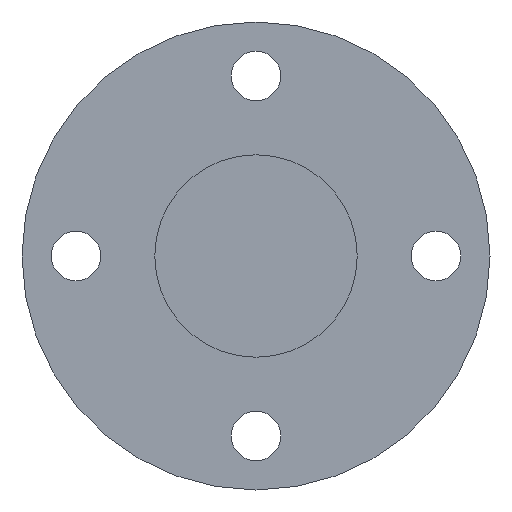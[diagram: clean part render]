
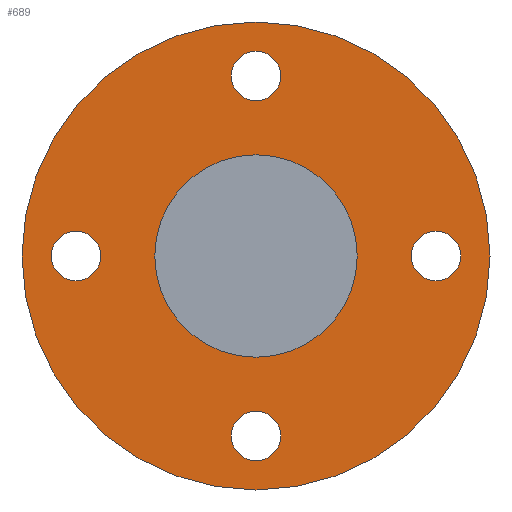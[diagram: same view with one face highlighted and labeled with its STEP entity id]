
A CAD part, left-side view. The second image highlights one B-rep face of the part: STEP entity #689.
In plain terms, the highlighted planar face has unit normal (-1, 0, 0).
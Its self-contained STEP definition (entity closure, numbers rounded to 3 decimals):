
#578=CARTESIAN_POINT('',(110.0,40.0,-5.5));
#579=VERTEX_POINT('',#578);
#580=CARTESIAN_POINT('',(110.0,40.0,0.));
#581=DIRECTION('',(1.0,0.0,0.0));
#582=DIRECTION('',(0.0,0.0,-1.0));
#583=AXIS2_PLACEMENT_3D('',#580,#581,#582);
#584=CIRCLE('',#583,5.5);
#585=EDGE_CURVE('',#579,#579,#584,.T.);
#598=CARTESIAN_POINT('',(110.0,-5.5,-40.0));
#599=VERTEX_POINT('',#598);
#600=CARTESIAN_POINT('',(110.0,0.,-40.0));
#601=DIRECTION('',(1.0,0.0,0.0));
#602=DIRECTION('',(0.0,-1.0,0.0));
#603=AXIS2_PLACEMENT_3D('',#600,#601,#602);
#604=CIRCLE('',#603,5.5);
#605=EDGE_CURVE('',#599,#599,#604,.T.);
#618=CARTESIAN_POINT('',(110.0,-40.0,5.5));
#619=VERTEX_POINT('',#618);
#620=CARTESIAN_POINT('',(110.0,-40.0,0.));
#621=DIRECTION('',(1.0,0.0,0.0));
#622=DIRECTION('',(0.0,0.0,1.0));
#623=AXIS2_PLACEMENT_3D('',#620,#621,#622);
#624=CIRCLE('',#623,5.5);
#625=EDGE_CURVE('',#619,#619,#624,.T.);
#638=CARTESIAN_POINT('',(110.0,5.5,40.0));
#639=VERTEX_POINT('',#638);
#640=CARTESIAN_POINT('',(110.0,0.0,40.0));
#641=DIRECTION('',(1.0,0.0,0.0));
#642=DIRECTION('',(0.0,1.0,0.0));
#643=AXIS2_PLACEMENT_3D('',#640,#641,#642);
#644=CIRCLE('',#643,5.5);
#645=EDGE_CURVE('',#639,#639,#644,.T.);
#650=CARTESIAN_POINT('',(110.0,0.0,37.25));
#651=DIRECTION('',(-1.0,0.0,0.0));
#652=DIRECTION('',(0.0,0.0,1.0));
#653=AXIS2_PLACEMENT_3D('',#650,#651,#652);
#654=PLANE('',#653);
#655=CARTESIAN_POINT('',(110.0,0.0,52.0));
#656=VERTEX_POINT('',#655);
#657=CARTESIAN_POINT('',(110.0,0.0,0.0));
#658=DIRECTION('',(-1.0,0.0,0.0));
#659=DIRECTION('',(0.0,0.0,1.0));
#660=AXIS2_PLACEMENT_3D('',#657,#658,#659);
#661=CIRCLE('',#660,52.0);
#662=EDGE_CURVE('',#656,#656,#661,.T.);
#663=ORIENTED_EDGE('',*,*,#662,.T.);
#664=EDGE_LOOP('',(#663));
#665=FACE_OUTER_BOUND('',#664,.T.);
#666=ORIENTED_EDGE('',*,*,#585,.T.);
#667=EDGE_LOOP('',(#666));
#668=FACE_BOUND('',#667,.T.);
#669=ORIENTED_EDGE('',*,*,#605,.T.);
#670=EDGE_LOOP('',(#669));
#671=FACE_BOUND('',#670,.T.);
#672=ORIENTED_EDGE('',*,*,#625,.T.);
#673=EDGE_LOOP('',(#672));
#674=FACE_BOUND('',#673,.T.);
#675=ORIENTED_EDGE('',*,*,#645,.T.);
#676=EDGE_LOOP('',(#675));
#677=FACE_BOUND('',#676,.T.);
#678=CARTESIAN_POINT('',(110.0,0.0,22.5));
#679=VERTEX_POINT('',#678);
#680=CARTESIAN_POINT('',(110.0,0.0,0.0));
#681=DIRECTION('',(-1.0,0.0,0.0));
#682=DIRECTION('',(0.0,0.0,1.0));
#683=AXIS2_PLACEMENT_3D('',#680,#681,#682);
#684=CIRCLE('',#683,22.5);
#685=EDGE_CURVE('',#679,#679,#684,.T.);
#686=ORIENTED_EDGE('',*,*,#685,.F.);
#687=EDGE_LOOP('',(#686));
#688=FACE_BOUND('',#687,.T.);
#689=ADVANCED_FACE('',(#665,#668,#671,#674,#677,#688),#654,.T.);
